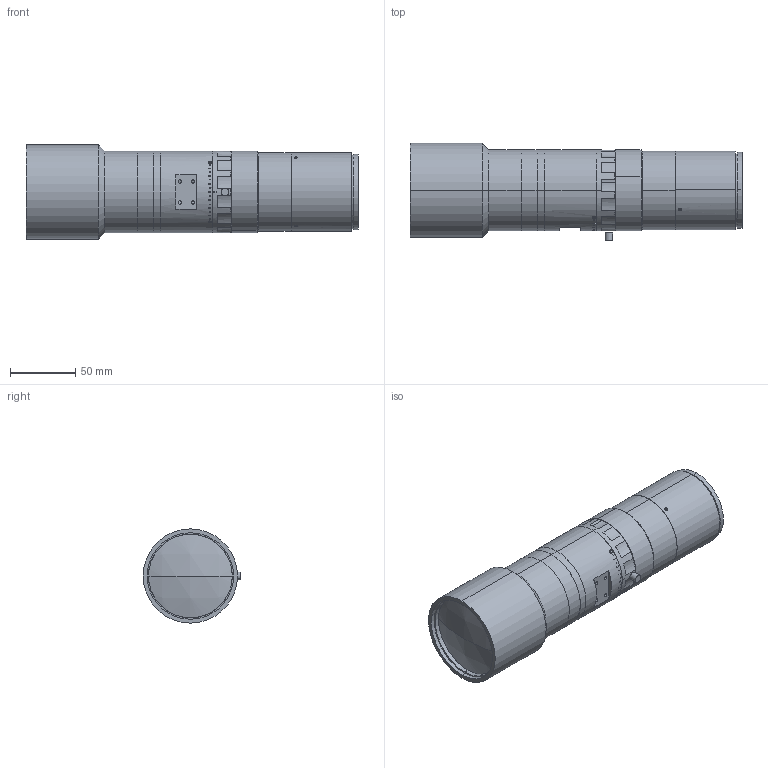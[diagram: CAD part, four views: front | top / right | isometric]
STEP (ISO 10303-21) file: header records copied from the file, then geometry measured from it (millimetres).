
FILE_DESCRIPTION (( 'STEP AP203' ), '1' );
FILE_NAME ('XF-MDT1X135-D38-VI-M58-11.48.STEP', '2023-06-09T03:19:00', ( '' ), ( '' ), 'SwSTEP 2.0', 'SolidWorks 2022', '' );
FILE_SCHEMA (( 'CONFIG_CONTROL_DESIGN' ));
Length unit declared in the file: millimetre
Products named in the file (1): XF-MDT1X135-D38-VI-M58-11.48
Bounding box: 253.52 x 74.5 x 72 mm (x, y, z)
Surface area: 74607.5 mm2 (no closed solid volume)
Topology: 0 solids, 19 shells, 195 faces, 657 edges, 467 vertices
Faces by surface type: plane 86, cylinder 81, cone 20, sphere 4, bspline 4
Entity records: 9139 total; most frequent: CARTESIAN_POINT 3402, DIRECTION 1224, ORIENTED_EDGE 1039, EDGE_CURVE 655, AXIS2_PLACEMENT_3D 468, VERTEX_POINT 467, LINE 288, VECTOR 288
